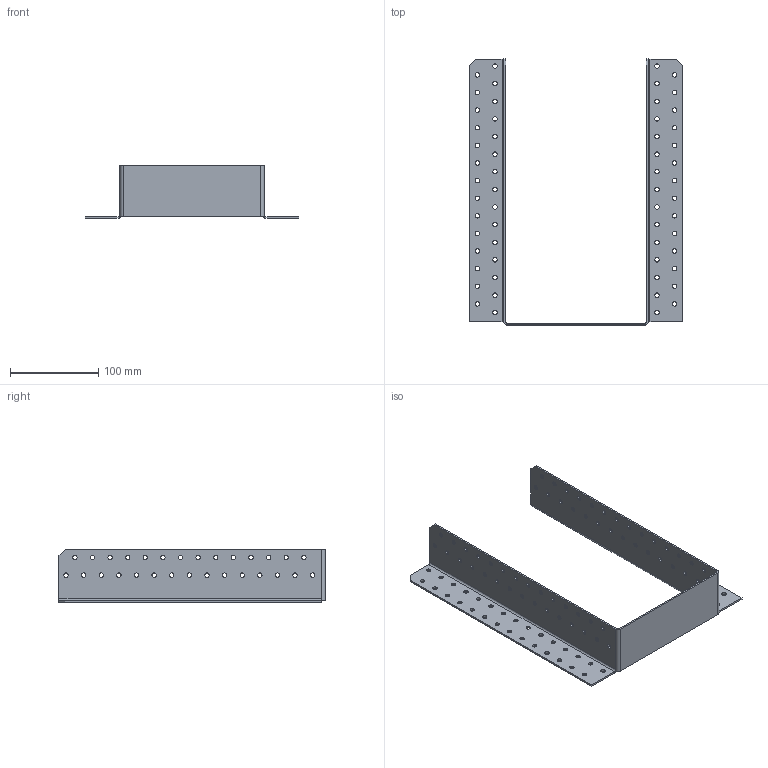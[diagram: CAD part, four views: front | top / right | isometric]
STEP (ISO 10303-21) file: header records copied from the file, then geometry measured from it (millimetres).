
FILE_DESCRIPTION (( 'STEP AP203' ), '1' );
FILE_NAME ('405322.STEP', '2021-04-17T17:26:23', ( '' ), ( '' ), 'SwSTEP 2.0', 'SolidWorks 2013', '' );
FILE_SCHEMA (( 'CONFIG_CONTROL_DESIGN' ));
Length unit declared in the file: millimetre
Products named in the file (1): 405322
Bounding box: 242 x 302 x 60 mm (x, y, z)
Volume: 130911.1 mm3; surface area: 138119.4 mm2
Topology: 1 solids, 1 shells, 276 faces, 792 edges, 518 vertices
Faces by surface type: cylinder 240, plane 36
Entity records: 9819 total; most frequent: DIRECTION 1828, CARTESIAN_POINT 1587, ORIENTED_EDGE 1584, EDGE_CURVE 792, AXIS2_PLACEMENT_3D 759, VERTEX_POINT 518, EDGE_LOOP 508, CIRCLE 482
